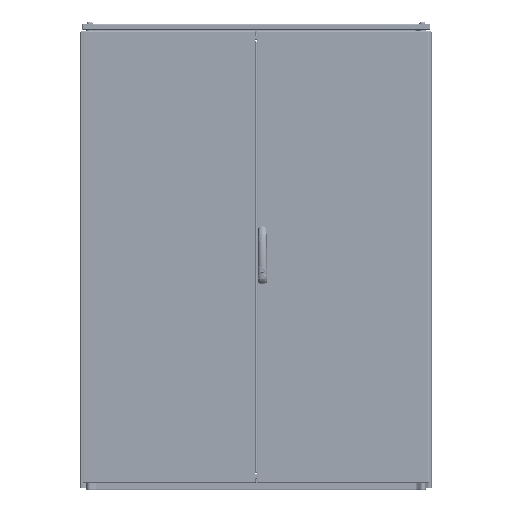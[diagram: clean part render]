
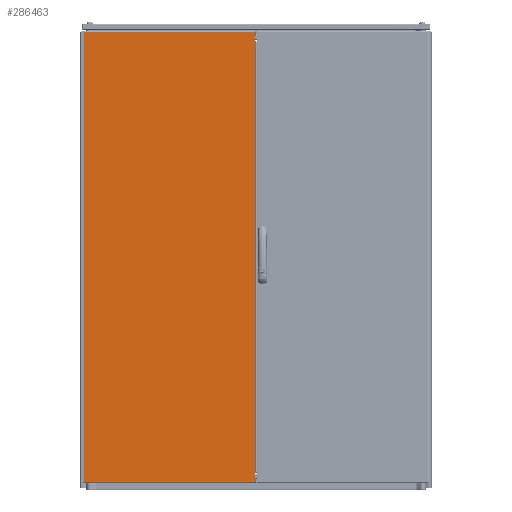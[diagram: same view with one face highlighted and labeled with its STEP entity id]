
A CAD part, top view. The second image highlights one B-rep face of the part: STEP entity #286463.
In plain terms, the highlighted planar face has unit normal (0, 0, 1).
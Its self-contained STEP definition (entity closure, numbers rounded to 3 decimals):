
#29206 = AXIS2_PLACEMENT_3D ( 'NONE', #100980, #131699, #301052 ) ;
#35139 = EDGE_CURVE ( 'NONE', #61254, #280226, #264951, .T. ) ;
#53036 = ORIENTED_EDGE ( 'NONE', *, *, #130409, .T. ) ;
#56867 = CARTESIAN_POINT ( 'NONE',  ( 2.001, 3., 19. ) ) ;
#59137 = ORIENTED_EDGE ( 'NONE', *, *, #336452, .T. ) ;
#61254 = VERTEX_POINT ( 'NONE', #308257 ) ;
#86653 = ORIENTED_EDGE ( 'NONE', *, *, #35139, .T. ) ;
#89988 = DIRECTION ( 'NONE',  ( 0., 1., 0. ) ) ;
#91876 = VECTOR ( 'NONE', #116180, 1000. ) ;
#100980 = CARTESIAN_POINT ( 'NONE',  ( 0., 1560., 19. ) ) ;
#116180 = DIRECTION ( 'NONE',  ( 0., -1., 0. ) ) ;
#121498 = EDGE_CURVE ( 'NONE', #220380, #327324, #173889, .T. ) ;
#127792 = CARTESIAN_POINT ( 'NONE',  ( 592., 1560., 19. ) ) ;
#130409 = EDGE_CURVE ( 'NONE', #327324, #61254, #310174, .T. ) ;
#131699 = DIRECTION ( 'NONE',  ( 0., 0., -1. ) ) ;
#149874 = ORIENTED_EDGE ( 'NONE', *, *, #121498, .T. ) ;
#153038 = PLANE ( 'NONE',  #29206 ) ;
#159858 = VECTOR ( 'NONE', #288925, 1000. ) ;
#166329 = EDGE_LOOP ( 'NONE', ( #59137, #149874, #53036, #86653 ) ) ;
#173889 = LINE ( 'NONE', #262311, #91876 ) ;
#220380 = VERTEX_POINT ( 'NONE', #319580 ) ;
#250363 = DIRECTION ( 'NONE',  ( -1., 0., 0. ) ) ;
#262311 = CARTESIAN_POINT ( 'NONE',  ( 2.001, 3., 19. ) ) ;
#264951 = LINE ( 'NONE', #127792, #361638 ) ;
#277315 = CARTESIAN_POINT ( 'NONE',  ( 0., 1557., 19. ) ) ;
#280226 = VERTEX_POINT ( 'NONE', #308717 ) ;
#281084 = LINE ( 'NONE', #277315, #349182 ) ;
#286463 = ADVANCED_FACE ( 'NONE', ( #299155 ), #153038, .F. ) ;
#288925 = DIRECTION ( 'NONE',  ( 1., 0., 0. ) ) ;
#299155 = FACE_OUTER_BOUND ( 'NONE', #166329, .T. ) ;
#301052 = DIRECTION ( 'NONE',  ( -1., 0., 0. ) ) ;
#308257 = CARTESIAN_POINT ( 'NONE',  ( 592., 3., 19. ) ) ;
#308717 = CARTESIAN_POINT ( 'NONE',  ( 592., 1557., 19. ) ) ;
#310174 = LINE ( 'NONE', #312069, #159858 ) ;
#312069 = CARTESIAN_POINT ( 'NONE',  ( 0., 3., 19. ) ) ;
#319580 = CARTESIAN_POINT ( 'NONE',  ( 2.001, 1557., 19. ) ) ;
#327324 = VERTEX_POINT ( 'NONE', #56867 ) ;
#336452 = EDGE_CURVE ( 'NONE', #280226, #220380, #281084, .T. ) ;
#349182 = VECTOR ( 'NONE', #250363, 1000. ) ;
#361638 = VECTOR ( 'NONE', #89988, 1000. ) ;
